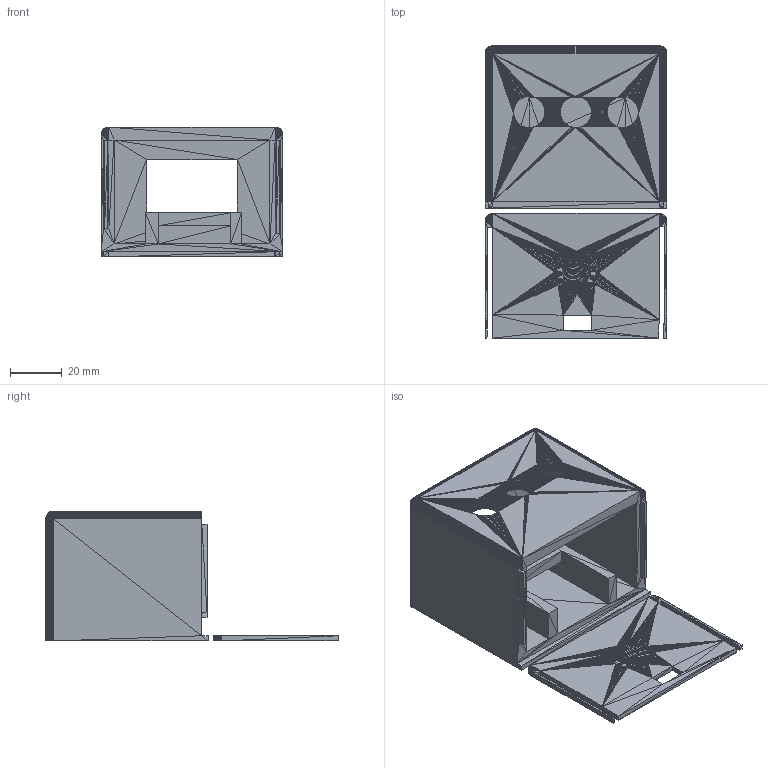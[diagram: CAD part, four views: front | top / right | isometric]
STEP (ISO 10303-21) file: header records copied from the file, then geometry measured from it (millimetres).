
FILE_DESCRIPTION((''),'2;1');
FILE_NAME('SPOTDISP v3', '2026-04-18T19:02:06', (''), (''), 'ImageToStl.com STEP Converter','', '');
FILE_SCHEMA(('AUTOMOTIVE_DESIGN_CC2'));
Length unit declared in the file: metre
Products named in the file (1): product0
Bounding box: 70 x 112.45 x 50 mm (x, y, z)
Surface area: 41812.1 mm2 (no closed solid volume)
Topology: 0 solids, 6584 shells, 6584 faces, 19752 edges, 3286 vertices
Faces by surface type: plane 6584
Entity records: 151448 total; most frequent: DIRECTION 32922, ORIENTED_EDGE 19752, EDGE_CURVE 19752, LINE 19752, VECTOR 19752, AXIS2_PLACEMENT_3D 6585, FACE_SURFACE 6584, PLANE 6584
